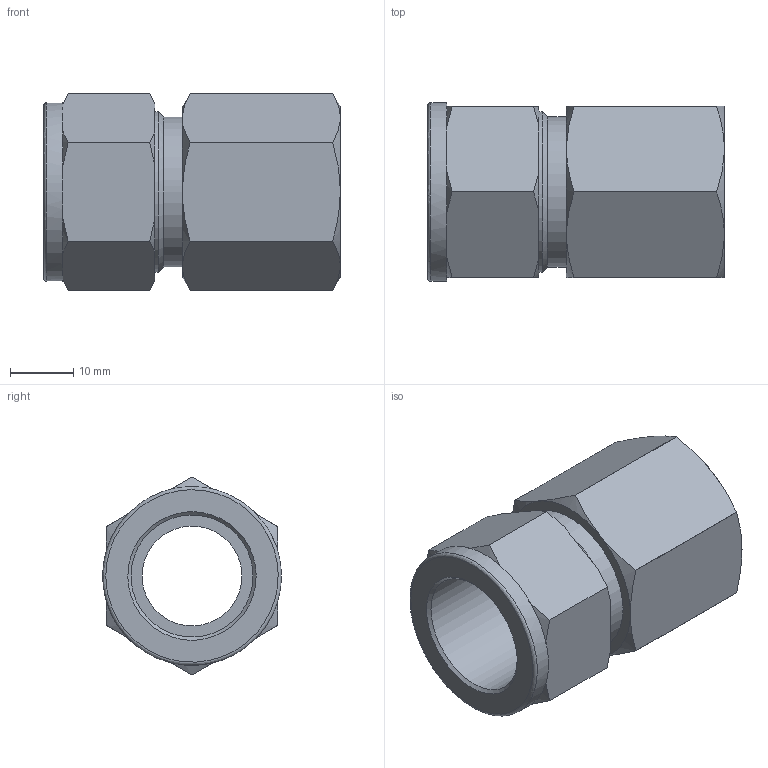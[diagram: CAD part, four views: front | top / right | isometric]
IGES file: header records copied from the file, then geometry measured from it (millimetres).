
Global section: file name: SFC-12-8N; native system: Autodesk Inventor 2016; preprocessor: unknown; author: 배성훈,,11,0; organization: 20151010.062528; date: 20151019.102814; units: millimetre
Bounding box: 46.79 x 28.2 x 31.18 mm (x, y, z)
Volume: 15304.9 mm3; surface area: 8146.9 mm2
Topology: 1 solids, 1 shells, 57 faces, 152 edges, 102 vertices
Faces by surface type: bspline 57
